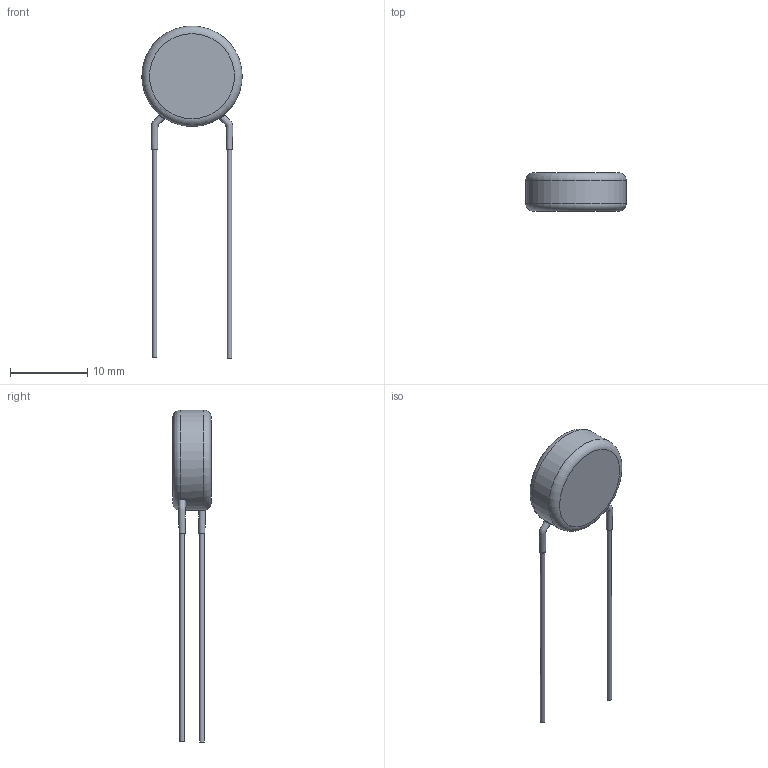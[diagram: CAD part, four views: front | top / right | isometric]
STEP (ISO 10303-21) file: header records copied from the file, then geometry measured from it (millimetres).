
FILE_DESCRIPTION(/* description */ (''),/* implementation_level */ '2;1');
FILE_NAME(/* name */ 'I:\Marketing\M6t1\3D-Models\Zchng-Werk-3\Upload for homepage\BCC neu\AY2 Straight\Step\AY2472#49Y5US63L0.stp',/* time_stamp */ '2023-07-13T14:14:15+02:00',/* author */ ('truediger'),/* organization */ (''),/* preprocessor_version */ 'ST-DEVELOPER v18',/* originating_system */ 'Autodesk Inventor 2020',/* authorisation */ '');
FILE_SCHEMA (('AUTOMOTIVE_DESIGN { 1 0 10303 214 3 1 1 }'));
Length unit declared in the file: millimetre
Products named in the file (1): Bauteil2
Bounding box: 13 x 5 x 43 mm (x, y, z)
Volume: 667.3 mm3; surface area: 559.9 mm2
Topology: 1 solids, 1 shells, 19 faces, 43 edges, 28 vertices
Faces by surface type: bspline 8, plane 6, cylinder 3, torus 2
Full cylindrical faces by diameter (mm): 0.6 x2, 13 x1
Entity records: 1858 total; most frequent: CARTESIAN_POINT 1397, ORIENTED_EDGE 86, DIRECTION 75, EDGE_CURVE 43, AXIS2_PLACEMENT_3D 36, VERTEX_POINT 28, CIRCLE 24, EDGE_LOOP 21
